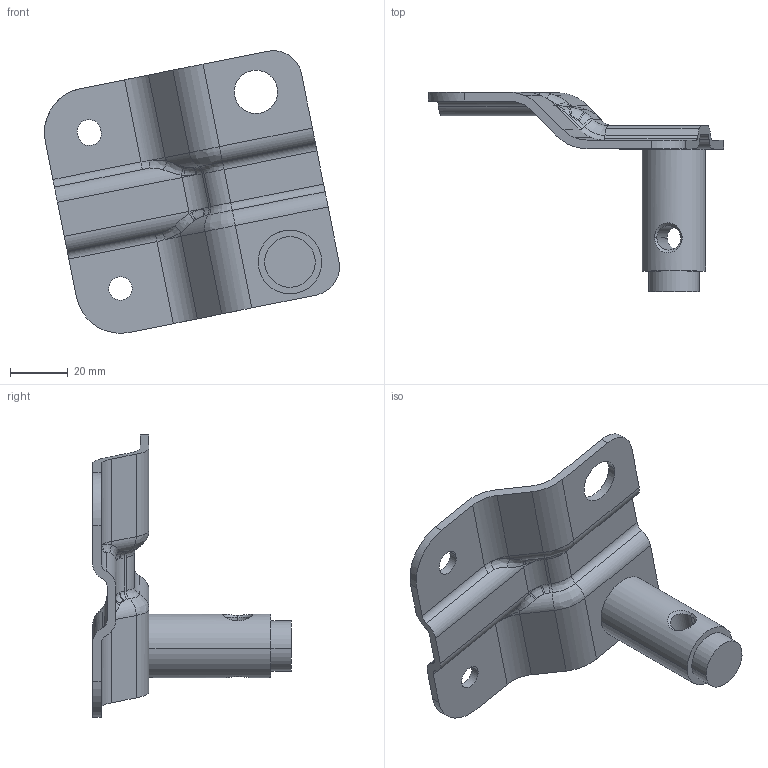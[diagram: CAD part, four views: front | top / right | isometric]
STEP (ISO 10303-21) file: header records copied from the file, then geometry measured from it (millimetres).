
FILE_DESCRIPTION(('CATIA V5 STEP Exchange'),'2;1');
FILE_NAME('C:\Users\Administrator\Desktop\重汽3.0副司机扶手支架总成-20240227.stp','2024-02-27T06:46:00+00:00',('none'),('none'),'CATIA Version 5 Release 20 GA (IN-10)','CATIA V5 STEP AP214','none');
FILE_SCHEMA(('AUTOMOTIVE_DESIGN { 1 0 10303 214 1 1 1 1 }'));
Length unit declared in the file: millimetre
Products named in the file (1): QW
Bounding box: 102.07 x 68.79 x 97.75 mm (x, y, z)
Volume: 41581.6 mm3; surface area: 22250.3 mm2
Topology: 2 solids, 2 shells, 154 faces, 377 edges, 230 vertices
Faces by surface type: cylinder 74, bspline 52, plane 28
Entity records: 6988 total; most frequent: CARTESIAN_POINT 3899, ORIENTED_EDGE 752, DIRECTION 384, EDGE_CURVE 376, VERTEX_POINT 228, B_SPLINE_CURVE_WITH_KNOTS 185, EDGE_LOOP 166, AXIS2_PLACEMENT_3D 162
